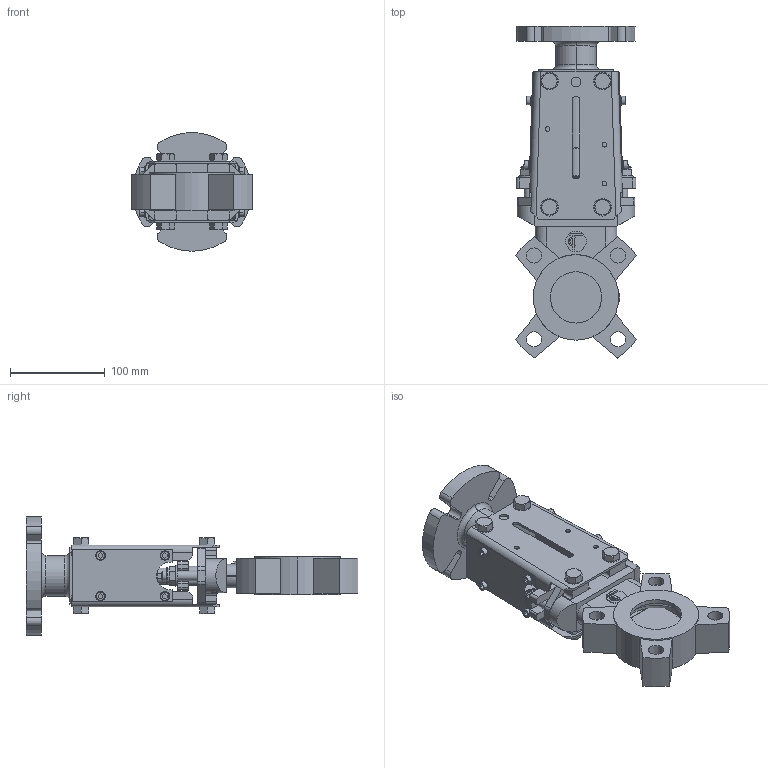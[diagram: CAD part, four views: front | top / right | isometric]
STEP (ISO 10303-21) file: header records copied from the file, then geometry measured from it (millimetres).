
FILE_DESCRIPTION (( 'STEP AP203' ), '1' );
FILE_NAME ('VG E A DN50.STEP', '2010-03-31T05:27:21', ( 'farex' ), ( '' ), 'SwSTEP 2.0', 'SolidWorks 2009', '' );
FILE_SCHEMA (( 'CONFIG_CONTROL_DESIGN' ));
Length unit declared in the file: millimetre
Products named in the file (1): VG E A DN50
Bounding box: 127.6 x 349.8 x 124.79 mm (x, y, z)
Volume: 1019156.2 mm3; surface area: 248385.1 mm2
Topology: 3 solids, 13 shells, 801 faces, 2035 edges, 1327 vertices
Faces by surface type: plane 421, cylinder 252, cone 85, bspline 33, torus 10
Entity records: 29859 total; most frequent: CARTESIAN_POINT 10503, ORIENTED_EDGE 4070, DIRECTION 3887, EDGE_CURVE 2035, AXIS2_PLACEMENT_3D 1370, VERTEX_POINT 1327, VECTOR 1147, LINE 1147
